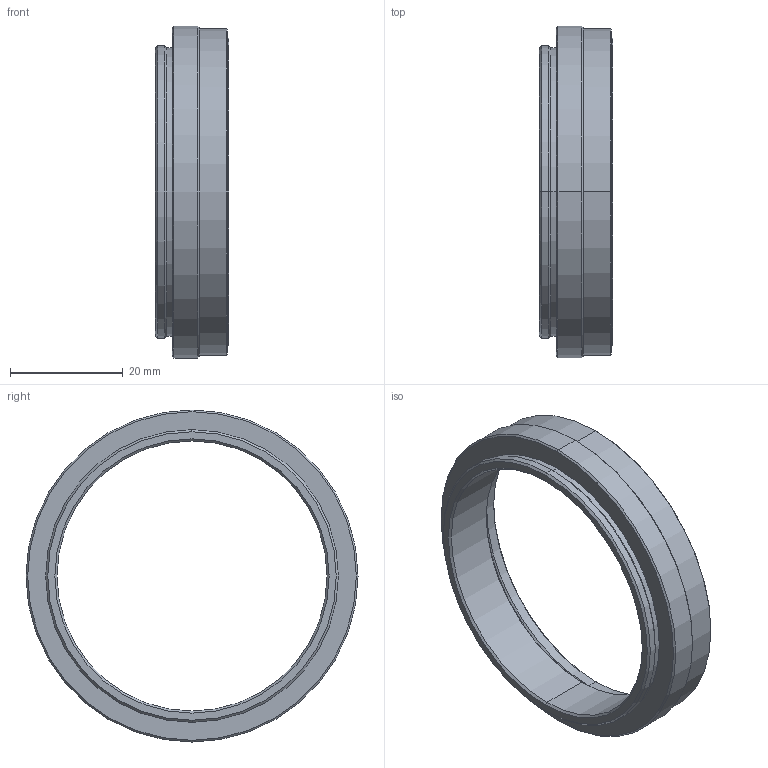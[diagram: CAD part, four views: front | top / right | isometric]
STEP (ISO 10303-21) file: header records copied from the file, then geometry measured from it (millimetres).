
FILE_DESCRIPTION (( 'STEP AP203' ), '1' );
FILE_NAME ('VS-EXR10_M52.STEP', '2016-06-08T08:12:08', ( 'miura_vst' ), ( '' ), 'SwSTEP 2.0', 'SolidWorks 2016', '' );
FILE_SCHEMA (( 'CONFIG_CONTROL_DESIGN' ));
Length unit declared in the file: millimetre
Products named in the file (1): VS-EXR10_M52
Bounding box: 13 x 59 x 59 mm (x, y, z)
Volume: 8556.6 mm3; surface area: 6098.1 mm2
Topology: 1 solids, 1 shells, 40 faces, 80 edges, 46 vertices
Faces by surface type: cone 20, cylinder 14, plane 6
Entity records: 1115 total; most frequent: DIRECTION 208, CARTESIAN_POINT 167, ORIENTED_EDGE 160, AXIS2_PLACEMENT_3D 87, EDGE_CURVE 80, VERTEX_POINT 46, EDGE_LOOP 46, CIRCLE 46
